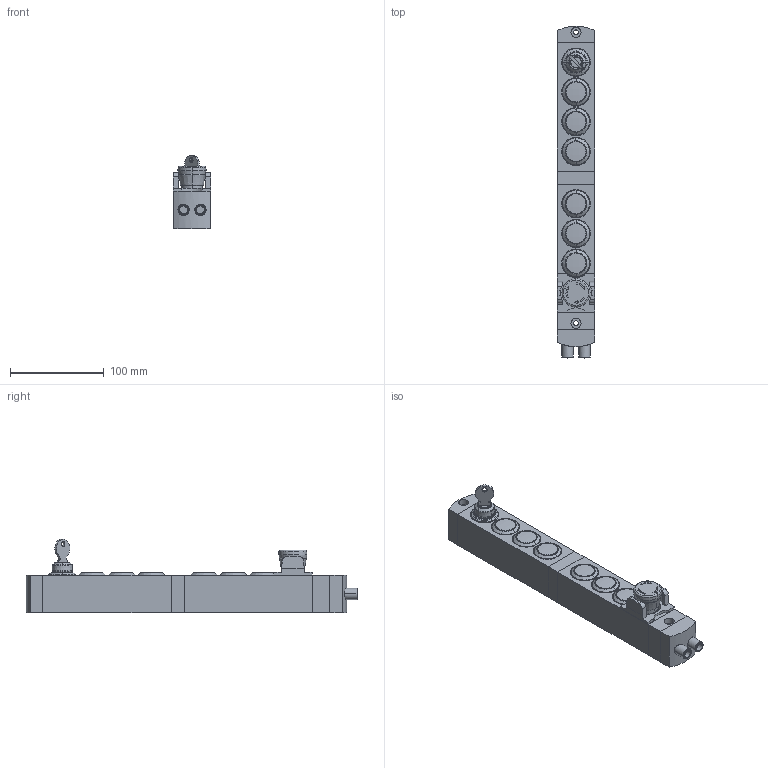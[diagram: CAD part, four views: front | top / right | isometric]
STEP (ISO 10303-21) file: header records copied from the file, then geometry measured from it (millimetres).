
FILE_DESCRIPTION (( 'STEP AP203' ), '1' );
FILE_NAME ('ZF_STEP_BN_AC8EA04.STEP', '2025-11-17T13:53:44', ( '' ), ( '' ), 'SwSTEP 2.0', 'SolidWorks 2023', '' );
FILE_SCHEMA (( 'CONFIG_CONTROL_DESIGN' ));
Length unit declared in the file: millimetre
Products named in the file (16): Pizzato_4dispositivi; ZF_STEP_VN_NG-AC26043; ZF_STEP_BN_AC8EA04; ZF_STEP_VN_NG-AC27121; 26043_26043; Pizzato_11144; ZF_STEP_VN_NG-AC26052; Pulsate emergenza rosso_3DWeb_26052; Pulsante rasato_3DWeb_27121 bianco; Pizzato_11135; Connettore M12 doppio; Pizzato_11133; 26043_chiave_26043; ZF_STEP_Guardia 11163; Guardia 11163_3DWeb_default
Assembly tree (21 placements, depth 3):
  ZF_STEP_BN_AC8EA04
    Pizzato_11144
    Pizzato_11135
    Pizzato_4dispositivi  x2
    Pizzato_11133
    Connettore M12 doppio
      Connettore M12 doppio
    ZF_STEP_VN_NG-AC26043
      26043_26043
      26043_chiave_26043
    ZF_STEP_VN_NG-AC27121  x6
      Pulsante rasato_3DWeb_27121 bianco
    ZF_STEP_VN_NG-AC26052
      Pulsate emergenza rosso_3DWeb_26052
    ZF_STEP_Guardia 11163
      Guardia 11163_3DWeb_default
Bounding box: 40 x 354.1 x 78.16 mm (x, y, z)
Volume: 586231.4 mm3; surface area: 117929.8 mm2
Topology: 16 solids, 18 shells, 1589 faces, 4104 edges, 2712 vertices
Faces by surface type: plane 845, cylinder 329, bspline 280, cone 123, torus 12
Entity records: 37303 total; most frequent: CARTESIAN_POINT 11147, ORIENTED_EDGE 5284, DIRECTION 4673, EDGE_CURVE 2642, VERTEX_POINT 1734, VECTOR 1697, LINE 1697, AXIS2_PLACEMENT_3D 1488
